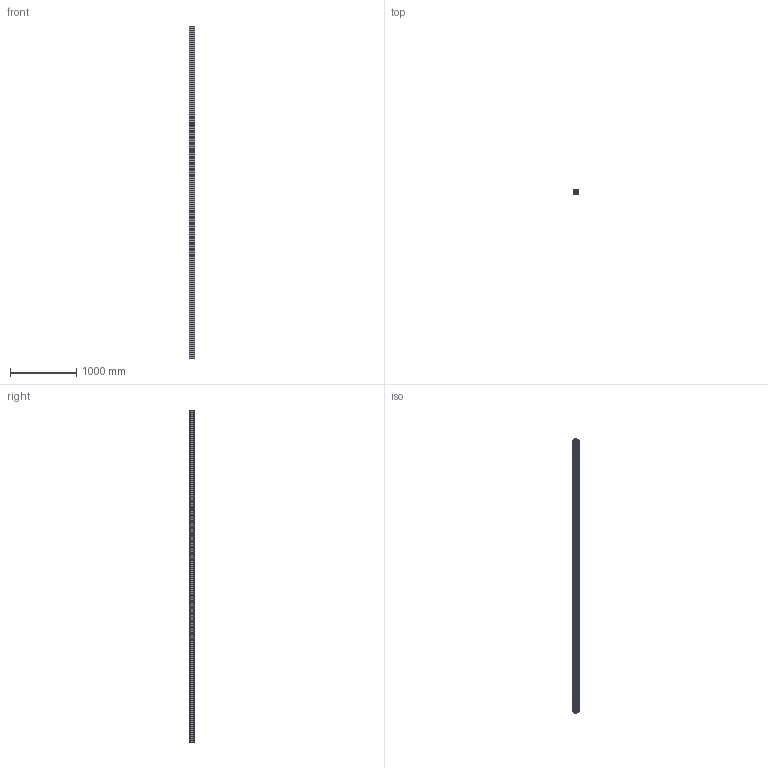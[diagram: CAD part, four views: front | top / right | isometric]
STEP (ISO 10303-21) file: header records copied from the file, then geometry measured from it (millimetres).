
FILE_DESCRIPTION (( 'STEP AP203' ), '1' );
FILE_NAME ('_-_MLF 4 4998 mm lang.step', '2005-09-01T12:47:21', ( ' ' ), ( ' ' ), 'SwSTEP 2.0', 'SolidWorks 2005187', '' );
FILE_SCHEMA (( 'CONFIG_CONTROL_DESIGN' ));
Length unit declared in the file: millimetre
Products named in the file (1): _-_MLF 4  4998 mm lang
Bounding box: 87.56 x 80 x 4998 mm (x, y, z)
Volume: 11516545.1 mm3; surface area: 6170586.9 mm2
Topology: 1 solids, 1 shells, 248 faces, 762 edges, 500 vertices
Faces by surface type: plane 174, cylinder 74
Entity records: 8575 total; most frequent: ORIENTED_EDGE 1524, CARTESIAN_POINT 1511, DIRECTION 1408, EDGE_CURVE 762, VECTOR 614, LINE 614, VERTEX_POINT 500, AXIS2_PLACEMENT_3D 397
